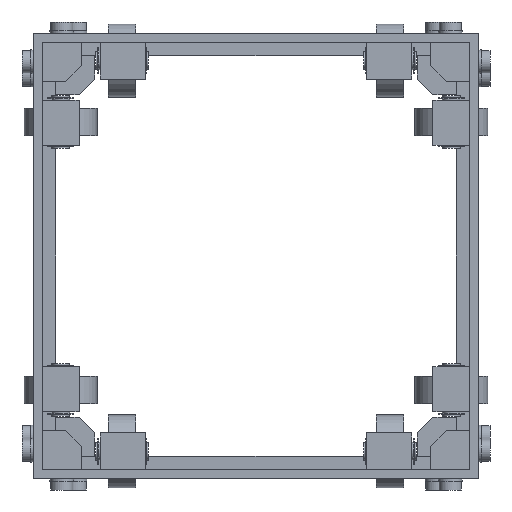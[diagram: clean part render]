
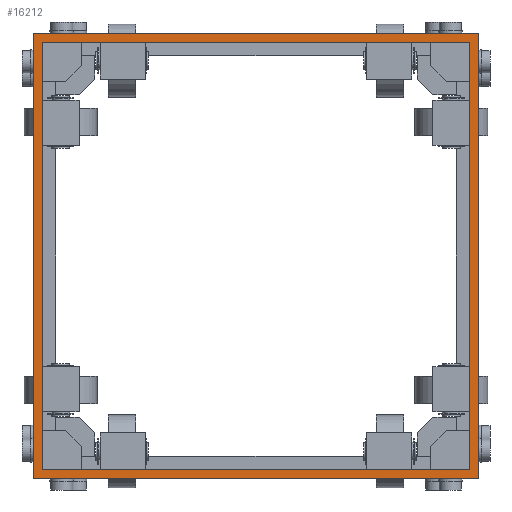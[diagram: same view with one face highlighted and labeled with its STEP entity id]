
A CAD part, front view. The second image highlights one B-rep face of the part: STEP entity #16212.
In plain terms, the highlighted planar face has unit normal (0, -1, 0).
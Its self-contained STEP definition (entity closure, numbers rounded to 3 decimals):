
#882=LINE('',#25823,#2170);
#908=LINE('',#25912,#2196);
#909=LINE('',#25913,#2197);
#910=LINE('',#25914,#2198);
#911=LINE('',#25917,#2199);
#912=LINE('',#25919,#2200);
#913=LINE('',#25921,#2201);
#914=LINE('',#25922,#2202);
#2170=VECTOR('',#21226,398.);
#2196=VECTOR('',#21290,398.);
#2197=VECTOR('',#21291,398.);
#2198=VECTOR('',#21292,398.);
#2199=VECTOR('',#21293,382.);
#2200=VECTOR('',#21294,382.);
#2201=VECTOR('',#21295,382.);
#2202=VECTOR('',#21296,382.);
#3014=PLANE('',#17694);
#3546=FACE_BOUND('',#6025,.T.);
#4747=FACE_OUTER_BOUND('',#6024,.T.);
#6024=EDGE_LOOP('',(#12908,#12909,#12910,#12911));
#6025=EDGE_LOOP('',(#12912,#12913,#12914,#12915));
#8354=VERTEX_POINT('',#25820);
#8355=VERTEX_POINT('',#25822);
#8398=VERTEX_POINT('',#25910);
#8399=VERTEX_POINT('',#25911);
#8400=VERTEX_POINT('',#25915);
#8401=VERTEX_POINT('',#25916);
#8402=VERTEX_POINT('',#25918);
#8403=VERTEX_POINT('',#25920);
#10047=EDGE_CURVE('',#8355,#8354,#882,.T.);
#10091=EDGE_CURVE('',#8398,#8399,#908,.T.);
#10092=EDGE_CURVE('',#8399,#8355,#909,.T.);
#10093=EDGE_CURVE('',#8354,#8398,#910,.T.);
#10094=EDGE_CURVE('',#8400,#8401,#911,.T.);
#10095=EDGE_CURVE('',#8401,#8402,#912,.T.);
#10096=EDGE_CURVE('',#8402,#8403,#913,.T.);
#10097=EDGE_CURVE('',#8403,#8400,#914,.T.);
#12908=ORIENTED_EDGE('',*,*,#10091,.T.);
#12909=ORIENTED_EDGE('',*,*,#10092,.T.);
#12910=ORIENTED_EDGE('',*,*,#10047,.T.);
#12911=ORIENTED_EDGE('',*,*,#10093,.T.);
#12912=ORIENTED_EDGE('',*,*,#10094,.T.);
#12913=ORIENTED_EDGE('',*,*,#10095,.T.);
#12914=ORIENTED_EDGE('',*,*,#10096,.T.);
#12915=ORIENTED_EDGE('',*,*,#10097,.T.);
#16212=ADVANCED_FACE('',(#4747,#3546),#3014,.T.);
#17694=AXIS2_PLACEMENT_3D('',#25909,#21288,#21289);
#21226=DIRECTION('',(1.,0.,0.));
#21288=DIRECTION('center_axis',(0.,-1.,0.));
#21289=DIRECTION('ref_axis',(0.,0.,1.));
#21290=DIRECTION('',(-1.,0.,0.));
#21291=DIRECTION('',(0.,0.,-1.));
#21292=DIRECTION('',(0.,0.,1.));
#21293=DIRECTION('',(1.,0.,0.));
#21294=DIRECTION('',(0.,0.,-1.));
#21295=DIRECTION('',(-1.,0.,0.));
#21296=DIRECTION('',(0.,0.,1.));
#25820=CARTESIAN_POINT('',(199.,-470.,-199.));
#25822=CARTESIAN_POINT('',(-199.,-470.,-199.));
#25823=CARTESIAN_POINT('',(191.,-470.,-199.));
#25909=CARTESIAN_POINT('Origin',(-199.,-470.,-191.));
#25910=CARTESIAN_POINT('',(199.,-470.,199.));
#25911=CARTESIAN_POINT('',(-199.,-470.,199.));
#25912=CARTESIAN_POINT('',(-191.,-470.,199.));
#25913=CARTESIAN_POINT('',(-199.,-470.,-191.));
#25914=CARTESIAN_POINT('',(199.,-470.,191.));
#25915=CARTESIAN_POINT('',(-191.,-470.,191.));
#25916=CARTESIAN_POINT('',(191.,-470.,191.));
#25917=CARTESIAN_POINT('',(-191.,-470.,191.));
#25918=CARTESIAN_POINT('',(191.,-470.,-191.));
#25919=CARTESIAN_POINT('',(191.,-470.,191.));
#25920=CARTESIAN_POINT('',(-191.,-470.,-191.));
#25921=CARTESIAN_POINT('',(191.,-470.,-191.));
#25922=CARTESIAN_POINT('',(-191.,-470.,-191.));
